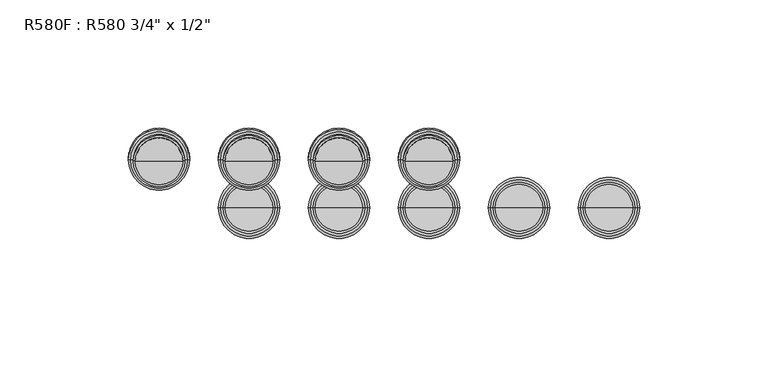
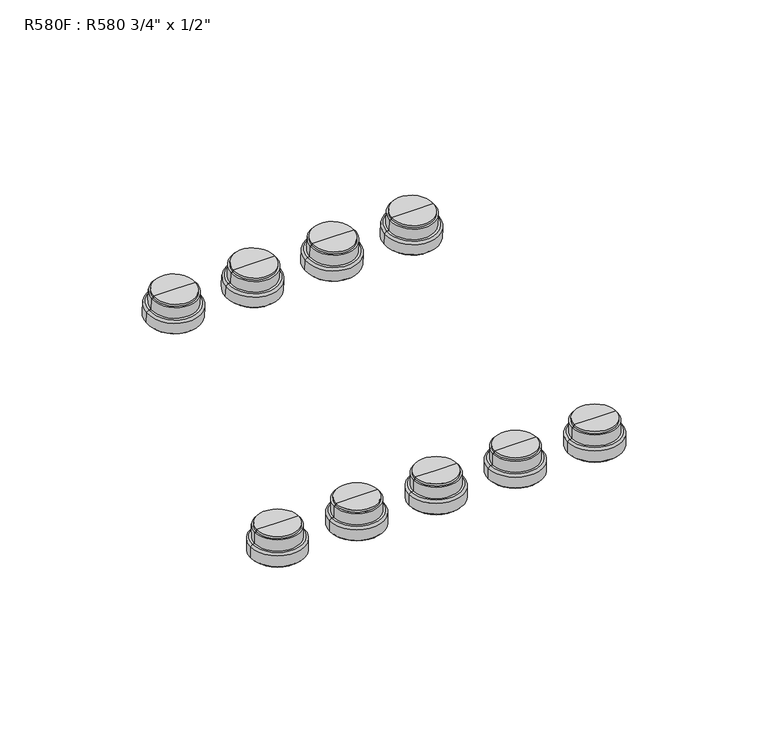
"""IFC4 building model written with IfcOpenShell, lengths in millimetres: proxy geometry."""

from ifc_helpers import new_model, si_unit, frame, origin, place, context, project, spatial, polyline, circle_curve, source, transform, mapped, element, save
from ifc_brep_helpers import plane_surface, cylinder_surface, revolved_surface, advanced_brep


def proxy_aa8e1a6c(model_context):
    return source(origin(), model_context, "Body", "AdvancedBrep", [
        advanced_brep(
        [(46.0837182, -40.61078, 23.0009657), (24.001911, -40.61078, 23.0009657), (35.0428146, -40.61078, 23.0009657), (35.0428146, -40.61078, 36.0625745), (25.8790369, -40.61078, 36.0625745), (44.2065922, -40.61078, 36.0625745), (25.8790369, -40.61078, 35.0572387), (44.2065922, -40.61078, 35.0572387), (25.0632135, -40.61078, 35.0572387), (45.0224157, -40.61078, 35.0572387), (25.0632135, -40.61078, 29.83161), (45.0224157, -40.61078, 29.83161), (24.0729601, -40.61078, 29.83161), (46.012669, -40.61078, 29.83161), (23.1221134, -40.61078, 28.8807632), (46.9635158, -40.61078, 28.8807632), (23.1221134, -40.61078, 23.8807632), (46.9635158, -40.61078, 23.8807632)],
        [
            (0, 1, circle_curve(frame((35.0428146, -40.61078, 23.0009657), z_axis=(0.0, 0.0, -1.0), x_axis=(-1.0, 0.0, 0.0)), 11.0409036)),
            (1, 2),
            (2, 0),
            (1, 0, circle_curve(frame((35.0428146, -40.61078, 23.0009657), z_axis=(0.0, 0.0, -1.0), x_axis=(-1.0, 0.0, 0.0)), 11.0409036)),
            (3, 4),
            (4, 5, circle_curve(frame((35.0428146, -40.61078, 36.0625745), z_axis=(0.0, 0.0, 1.0), x_axis=(-1.0, 0.0, 0.0)), 9.1637776)),
            (5, 3),
            (5, 4, circle_curve(frame((35.0428146, -40.61078, 36.0625745), z_axis=(0.0, 0.0, 1.0), x_axis=(-1.0, 0.0, 0.0)), 9.1637776)),
            (4, 6),
            (6, 7, circle_curve(frame((35.0428146, -40.61078, 35.0572387), z_axis=(0.0, 0.0, 1.0), x_axis=(-1.0, 0.0, 0.0)), 9.1637776)),
            (7, 5),
            (7, 6, circle_curve(frame((35.0428146, -40.61078, 35.0572387), z_axis=(0.0, 0.0, 1.0), x_axis=(-1.0, 0.0, 0.0)), 9.1637776)),
            (6, 8),
            (8, 9, circle_curve(frame((35.0428146, -40.61078, 35.0572387), z_axis=(0.0, 0.0, 1.0), x_axis=(-1.0, 0.0, 0.0)), 9.9796011)),
            (9, 7),
            (9, 8, circle_curve(frame((35.0428146, -40.61078, 35.0572387), z_axis=(0.0, 0.0, 1.0), x_axis=(-1.0, 0.0, 0.0)), 9.9796011)),
            (8, 10),
            (10, 11, circle_curve(frame((35.0428146, -40.61078, 29.83161), z_axis=(0.0, 0.0, 1.0), x_axis=(-1.0, 0.0, 0.0)), 9.9796011)),
            (11, 9),
            (11, 10, circle_curve(frame((35.0428146, -40.61078, 29.83161), z_axis=(0.0, 0.0, 1.0), x_axis=(-1.0, 0.0, 0.0)), 9.9796011)),
            (10, 12),
            (12, 13, circle_curve(frame((35.0428146, -40.61078, 29.83161), z_axis=(0.0, 0.0, 1.0), x_axis=(-1.0, 0.0, 0.0)), 10.9698544)),
            (13, 11),
            (13, 12, circle_curve(frame((35.0428146, -40.61078, 29.83161), z_axis=(0.0, 0.0, 1.0), x_axis=(-1.0, 0.0, 0.0)), 10.9698544)),
            (12, 14),
            (14, 15, circle_curve(frame((35.0428146, -40.61078, 28.8807632), z_axis=(0.0, 0.0, 1.0), x_axis=(-1.0, 0.0, 0.0)), 11.9207012)),
            (15, 13),
            (15, 14, circle_curve(frame((35.0428146, -40.61078, 28.8807632), z_axis=(0.0, 0.0, 1.0), x_axis=(-1.0, 0.0, 0.0)), 11.9207012)),
            (14, 16),
            (16, 17, circle_curve(frame((35.0428146, -40.61078, 23.8807632), z_axis=(0.0, 0.0, 1.0), x_axis=(-1.0, 0.0, 0.0)), 11.9207012)),
            (17, 15),
            (17, 16, circle_curve(frame((35.0428146, -40.61078, 23.8807632), z_axis=(0.0, 0.0, 1.0), x_axis=(-1.0, 0.0, 0.0)), 11.9207012)),
            (16, 1),
            (0, 17),
        ],
        [
            plane_surface(frame((35.0428146, -40.61078, 23.0009657), z_axis=(0.0, 0.0, -1.0), x_axis=(-1.0, 0.0, 0.0))),
            plane_surface(frame((35.0428146, -40.61078, 36.0625745), z_axis=(0.0, 0.0, 1.0), x_axis=(-1.0, 0.0, 0.0))),
            cylinder_surface(frame((35.0428146, -40.61078, 46.0625745), z_axis=(0.0, 0.0, 1.0), x_axis=(-1.0, 0.0, 0.0)), 9.1637776),
            plane_surface(frame((35.0428146, -40.61078, 35.0572387), z_axis=(0.0, 0.0, 1.0), x_axis=(-1.0, 0.0, 0.0))),
            cylinder_surface(frame((35.0428146, -40.61078, 46.0625745), z_axis=(0.0, 0.0, 1.0), x_axis=(-1.0, 0.0, 0.0)), 9.9796011),
            plane_surface(frame((35.0428146, -40.61078, 29.83161), z_axis=(0.0, 0.0, 1.0), x_axis=(-1.0, 0.0, 0.0))),
            revolved_surface(polyline([(23.1221134, -40.61078, 28.8807632), (24.0729601, -40.61078, 29.83161)]), (35.0428146, -40.61078, 46.0625745), (0.0, 0.0, 1.0)),
            cylinder_surface(frame((35.0428146, -40.61078, 46.0625745), z_axis=(0.0, 0.0, 1.0), x_axis=(-1.0, 0.0, 0.0)), 11.9207012),
            revolved_surface(polyline([(24.001911, -40.61078, 23.0009657), (23.1221134, -40.61078, 23.8807632)]), (35.0428146, -40.61078, 46.0625745), (0.0, 0.0, 1.0)),
        ],
        [
            (0, [[1, 2, 3]]),
            (0, [[4, -3, -2]]),
            (1, [[5, 6, 7]]),
            (1, [[-7, 8, -5]]),
            (2, [[-6, 9, 10, 11]]),
            (2, [[-8, -11, 12, -9]]),
            (3, [[-10, 13, 14, 15]]),
            (3, [[-12, -15, 16, -13]]),
            (4, [[-14, 17, 18, 19]]),
            (4, [[-16, -19, 20, -17]]),
            (5, [[-18, 21, 22, 23]]),
            (5, [[-20, -23, 24, -21]]),
            (6, [[-22, 25, 26, 27]]),
            (6, [[-24, -27, 28, -25]]),
            (7, [[-26, 29, 30, 31]]),
            (7, [[-28, -31, 32, -29]]),
            (8, [[-30, 33, -1, 34]]),
            (8, [[-32, -34, -4, -33]]),
        ],
    ),
        advanced_brep(
        [(81.12555, -40.61078, 23.0009657), (59.0437427, -40.61078, 23.0009657), (70.0846463, -40.61078, 23.0009657), (70.0846463, -40.61078, 36.0625745), (60.9208687, -40.61078, 36.0625745), (79.248424, -40.61078, 36.0625745), (60.9208687, -40.61078, 35.0572387), (79.248424, -40.61078, 35.0572387), (60.1050452, -40.61078, 35.0572387), (80.0642474, -40.61078, 35.0572387), (60.1050452, -40.61078, 29.83161), (80.0642474, -40.61078, 29.83161), (59.1147919, -40.61078, 29.83161), (81.0545008, -40.61078, 29.83161), (58.1639452, -40.61078, 28.8807632), (82.0053475, -40.61078, 28.8807632), (58.1639452, -40.61078, 23.8807632), (82.0053475, -40.61078, 23.8807632)],
        [
            (0, 1, circle_curve(frame((70.0846463, -40.61078, 23.0009657), z_axis=(0.0, 0.0, -1.0), x_axis=(-1.0, 0.0, 0.0)), 11.0409036)),
            (1, 2),
            (2, 0),
            (1, 0, circle_curve(frame((70.0846463, -40.61078, 23.0009657), z_axis=(0.0, 0.0, -1.0), x_axis=(-1.0, 0.0, 0.0)), 11.0409036)),
            (3, 4),
            (4, 5, circle_curve(frame((70.0846463, -40.61078, 36.0625745), z_axis=(0.0, 0.0, 1.0), x_axis=(-1.0, 0.0, 0.0)), 9.1637776)),
            (5, 3),
            (5, 4, circle_curve(frame((70.0846463, -40.61078, 36.0625745), z_axis=(0.0, 0.0, 1.0), x_axis=(-1.0, 0.0, 0.0)), 9.1637776)),
            (4, 6),
            (6, 7, circle_curve(frame((70.0846463, -40.61078, 35.0572387), z_axis=(0.0, 0.0, 1.0), x_axis=(-1.0, 0.0, 0.0)), 9.1637776)),
            (7, 5),
            (7, 6, circle_curve(frame((70.0846463, -40.61078, 35.0572387), z_axis=(0.0, 0.0, 1.0), x_axis=(-1.0, 0.0, 0.0)), 9.1637776)),
            (6, 8),
            (8, 9, circle_curve(frame((70.0846463, -40.61078, 35.0572387), z_axis=(0.0, 0.0, 1.0), x_axis=(-1.0, 0.0, 0.0)), 9.9796011)),
            (9, 7),
            (9, 8, circle_curve(frame((70.0846463, -40.61078, 35.0572387), z_axis=(0.0, 0.0, 1.0), x_axis=(-1.0, 0.0, 0.0)), 9.9796011)),
            (8, 10),
            (10, 11, circle_curve(frame((70.0846463, -40.61078, 29.83161), z_axis=(0.0, 0.0, 1.0), x_axis=(-1.0, 0.0, 0.0)), 9.9796011)),
            (11, 9),
            (11, 10, circle_curve(frame((70.0846463, -40.61078, 29.83161), z_axis=(0.0, 0.0, 1.0), x_axis=(-1.0, 0.0, 0.0)), 9.9796011)),
            (10, 12),
            (12, 13, circle_curve(frame((70.0846463, -40.61078, 29.83161), z_axis=(0.0, 0.0, 1.0), x_axis=(-1.0, 0.0, 0.0)), 10.9698544)),
            (13, 11),
            (13, 12, circle_curve(frame((70.0846463, -40.61078, 29.83161), z_axis=(0.0, 0.0, 1.0), x_axis=(-1.0, 0.0, 0.0)), 10.9698544)),
            (12, 14),
            (14, 15, circle_curve(frame((70.0846463, -40.61078, 28.8807632), z_axis=(0.0, 0.0, 1.0), x_axis=(-1.0, 0.0, 0.0)), 11.9207012)),
            (15, 13),
            (15, 14, circle_curve(frame((70.0846463, -40.61078, 28.8807632), z_axis=(0.0, 0.0, 1.0), x_axis=(-1.0, 0.0, 0.0)), 11.9207012)),
            (14, 16),
            (16, 17, circle_curve(frame((70.0846463, -40.61078, 23.8807632), z_axis=(0.0, 0.0, 1.0), x_axis=(-1.0, 0.0, 0.0)), 11.9207012)),
            (17, 15),
            (17, 16, circle_curve(frame((70.0846463, -40.61078, 23.8807632), z_axis=(0.0, 0.0, 1.0), x_axis=(-1.0, 0.0, 0.0)), 11.9207012)),
            (16, 1),
            (0, 17),
        ],
        [
            plane_surface(frame((70.0846463, -40.61078, 23.0009657), z_axis=(0.0, 0.0, -1.0), x_axis=(-1.0, 0.0, 0.0))),
            plane_surface(frame((70.0846463, -40.61078, 36.0625745), z_axis=(0.0, 0.0, 1.0), x_axis=(-1.0, 0.0, 0.0))),
            cylinder_surface(frame((70.0846463, -40.61078, 46.0625745), z_axis=(0.0, 0.0, 1.0), x_axis=(-1.0, 0.0, 0.0)), 9.1637776),
            plane_surface(frame((70.0846463, -40.61078, 35.0572387), z_axis=(0.0, 0.0, 1.0), x_axis=(-1.0, 0.0, 0.0))),
            cylinder_surface(frame((70.0846463, -40.61078, 46.0625745), z_axis=(0.0, 0.0, 1.0), x_axis=(-1.0, 0.0, 0.0)), 9.9796011),
            plane_surface(frame((70.0846463, -40.61078, 29.83161), z_axis=(0.0, 0.0, 1.0), x_axis=(-1.0, 0.0, 0.0))),
            revolved_surface(polyline([(58.1639452, -40.61078, 28.8807632), (59.1147919, -40.61078, 29.83161)]), (70.0846463, -40.61078, 46.0625745), (0.0, 0.0, 1.0)),
            cylinder_surface(frame((70.0846463, -40.61078, 46.0625745), z_axis=(0.0, 0.0, 1.0), x_axis=(-1.0, 0.0, 0.0)), 11.9207012),
            revolved_surface(polyline([(59.0437427, -40.61078, 23.0009657), (58.1639452, -40.61078, 23.8807632)]), (70.0846463, -40.61078, 46.0625745), (0.0, 0.0, 1.0)),
        ],
        [
            (0, [[1, 2, 3]]),
            (0, [[4, -3, -2]]),
            (1, [[5, 6, 7]]),
            (1, [[-7, 8, -5]]),
            (2, [[-6, 9, 10, 11]]),
            (2, [[-8, -11, 12, -9]]),
            (3, [[-10, 13, 14, 15]]),
            (3, [[-12, -15, 16, -13]]),
            (4, [[-14, 17, 18, 19]]),
            (4, [[-16, -19, 20, -17]]),
            (5, [[-18, 21, 22, 23]]),
            (5, [[-20, -23, 24, -21]]),
            (6, [[-22, 25, 26, 27]]),
            (6, [[-24, -27, 28, -25]]),
            (7, [[-26, 29, 30, 31]]),
            (7, [[-28, -31, 32, -29]]),
            (8, [[-30, 33, -1, 34]]),
            (8, [[-32, -34, -4, -33]]),
        ],
    ),
        advanced_brep(
        [(116.1814682, -40.61078, 23.0009657), (94.099661, -40.61078, 23.0009657), (105.1405646, -40.61078, 23.0009657), (105.1405646, -40.61078, 36.0625745), (95.976787, -40.61078, 36.0625745), (114.3043423, -40.61078, 36.0625745), (95.976787, -40.61078, 35.0572387), (114.3043423, -40.61078, 35.0572387), (95.1609635, -40.61078, 35.0572387), (115.1201657, -40.61078, 35.0572387), (95.1609635, -40.61078, 29.83161), (115.1201657, -40.61078, 29.83161), (94.1707102, -40.61078, 29.83161), (116.1104191, -40.61078, 29.83161), (93.2198634, -40.61078, 28.8807632), (117.0612658, -40.61078, 28.8807632), (93.2198634, -40.61078, 23.8807632), (117.0612658, -40.61078, 23.8807632)],
        [
            (0, 1, circle_curve(frame((105.1405646, -40.61078, 23.0009657), z_axis=(0.0, 0.0, -1.0), x_axis=(-1.0, 0.0, 0.0)), 11.0409036)),
            (1, 2),
            (2, 0),
            (1, 0, circle_curve(frame((105.1405646, -40.61078, 23.0009657), z_axis=(0.0, 0.0, -1.0), x_axis=(-1.0, 0.0, 0.0)), 11.0409036)),
            (3, 4),
            (4, 5, circle_curve(frame((105.1405646, -40.61078, 36.0625745), z_axis=(0.0, 0.0, 1.0), x_axis=(-1.0, 0.0, 0.0)), 9.1637776)),
            (5, 3),
            (5, 4, circle_curve(frame((105.1405646, -40.61078, 36.0625745), z_axis=(0.0, 0.0, 1.0), x_axis=(-1.0, 0.0, 0.0)), 9.1637776)),
            (4, 6),
            (6, 7, circle_curve(frame((105.1405646, -40.61078, 35.0572387), z_axis=(0.0, 0.0, 1.0), x_axis=(-1.0, 0.0, 0.0)), 9.1637776)),
            (7, 5),
            (7, 6, circle_curve(frame((105.1405646, -40.61078, 35.0572387), z_axis=(0.0, 0.0, 1.0), x_axis=(-1.0, 0.0, 0.0)), 9.1637776)),
            (6, 8),
            (8, 9, circle_curve(frame((105.1405646, -40.61078, 35.0572387), z_axis=(0.0, 0.0, 1.0), x_axis=(-1.0, 0.0, 0.0)), 9.9796011)),
            (9, 7),
            (9, 8, circle_curve(frame((105.1405646, -40.61078, 35.0572387), z_axis=(0.0, 0.0, 1.0), x_axis=(-1.0, 0.0, 0.0)), 9.9796011)),
            (8, 10),
            (10, 11, circle_curve(frame((105.1405646, -40.61078, 29.83161), z_axis=(0.0, 0.0, 1.0), x_axis=(-1.0, 0.0, 0.0)), 9.9796011)),
            (11, 9),
            (11, 10, circle_curve(frame((105.1405646, -40.61078, 29.83161), z_axis=(0.0, 0.0, 1.0), x_axis=(-1.0, 0.0, 0.0)), 9.9796011)),
            (10, 12),
            (12, 13, circle_curve(frame((105.1405646, -40.61078, 29.83161), z_axis=(0.0, 0.0, 1.0), x_axis=(-1.0, 0.0, 0.0)), 10.9698544)),
            (13, 11),
            (13, 12, circle_curve(frame((105.1405646, -40.61078, 29.83161), z_axis=(0.0, 0.0, 1.0), x_axis=(-1.0, 0.0, 0.0)), 10.9698544)),
            (12, 14),
            (14, 15, circle_curve(frame((105.1405646, -40.61078, 28.8807632), z_axis=(0.0, 0.0, 1.0), x_axis=(-1.0, 0.0, 0.0)), 11.9207012)),
            (15, 13),
            (15, 14, circle_curve(frame((105.1405646, -40.61078, 28.8807632), z_axis=(0.0, 0.0, 1.0), x_axis=(-1.0, 0.0, 0.0)), 11.9207012)),
            (14, 16),
            (16, 17, circle_curve(frame((105.1405646, -40.61078, 23.8807632), z_axis=(0.0, 0.0, 1.0), x_axis=(-1.0, 0.0, 0.0)), 11.9207012)),
            (17, 15),
            (17, 16, circle_curve(frame((105.1405646, -40.61078, 23.8807632), z_axis=(0.0, 0.0, 1.0), x_axis=(-1.0, 0.0, 0.0)), 11.9207012)),
            (16, 1),
            (0, 17),
        ],
        [
            plane_surface(frame((105.1405646, -40.61078, 23.0009657), z_axis=(0.0, 0.0, -1.0), x_axis=(-1.0, 0.0, 0.0))),
            plane_surface(frame((105.1405646, -40.61078, 36.0625745), z_axis=(0.0, 0.0, 1.0), x_axis=(-1.0, 0.0, 0.0))),
            cylinder_surface(frame((105.1405646, -40.61078, 46.0625745), z_axis=(0.0, 0.0, 1.0), x_axis=(-1.0, 0.0, 0.0)), 9.1637776),
            plane_surface(frame((105.1405646, -40.61078, 35.0572387), z_axis=(0.0, 0.0, 1.0), x_axis=(-1.0, 0.0, 0.0))),
            cylinder_surface(frame((105.1405646, -40.61078, 46.0625745), z_axis=(0.0, 0.0, 1.0), x_axis=(-1.0, 0.0, 0.0)), 9.9796011),
            plane_surface(frame((105.1405646, -40.61078, 29.83161), z_axis=(0.0, 0.0, 1.0), x_axis=(-1.0, 0.0, 0.0))),
            revolved_surface(polyline([(93.2198634, -40.61078, 28.8807632), (94.1707102, -40.61078, 29.83161)]), (105.1405646, -40.61078, 46.0625745), (0.0, 0.0, 1.0)),
            cylinder_surface(frame((105.1405646, -40.61078, 46.0625745), z_axis=(0.0, 0.0, 1.0), x_axis=(-1.0, 0.0, 0.0)), 11.9207012),
            revolved_surface(polyline([(94.099661, -40.61078, 23.0009657), (93.2198634, -40.61078, 23.8807632)]), (105.1405646, -40.61078, 46.0625745), (0.0, 0.0, 1.0)),
        ],
        [
            (0, [[1, 2, 3]]),
            (0, [[4, -3, -2]]),
            (1, [[5, 6, 7]]),
            (1, [[-7, 8, -5]]),
            (2, [[-6, 9, 10, 11]]),
            (2, [[-8, -11, 12, -9]]),
            (3, [[-10, 13, 14, 15]]),
            (3, [[-12, -15, 16, -13]]),
            (4, [[-14, 17, 18, 19]]),
            (4, [[-16, -19, 20, -17]]),
            (5, [[-18, 21, 22, 23]]),
            (5, [[-20, -23, 24, -21]]),
            (6, [[-22, 25, 26, 27]]),
            (6, [[-24, -27, 28, -25]]),
            (7, [[-26, 29, 30, 31]]),
            (7, [[-28, -31, 32, -29]]),
            (8, [[-30, 33, -1, 34]]),
            (8, [[-32, -34, -4, -33]]),
        ],
    ),
        advanced_brep(
        [(151.2285785, -40.61078, 23.0009657), (129.1467712, -40.61078, 23.0009657), (140.1876748, -40.61078, 23.0009657), (140.1876748, -40.61078, 36.0625745), (131.0238972, -40.61078, 36.0625745), (149.3514525, -40.61078, 36.0625745), (131.0238972, -40.61078, 35.0572387), (149.3514525, -40.61078, 35.0572387), (130.2080738, -40.61078, 35.0572387), (150.1672759, -40.61078, 35.0572387), (130.2080738, -40.61078, 29.83161), (150.1672759, -40.61078, 29.83161), (129.2178204, -40.61078, 29.83161), (151.1575293, -40.61078, 29.83161), (128.2669737, -40.61078, 28.8807632), (152.108376, -40.61078, 28.8807632), (128.2669737, -40.61078, 23.8807632), (152.108376, -40.61078, 23.8807632)],
        [
            (0, 1, circle_curve(frame((140.1876748, -40.61078, 23.0009657), z_axis=(0.0, 0.0, -1.0), x_axis=(-1.0, 0.0, 0.0)), 11.0409036)),
            (1, 2),
            (2, 0),
            (1, 0, circle_curve(frame((140.1876748, -40.61078, 23.0009657), z_axis=(0.0, 0.0, -1.0), x_axis=(-1.0, 0.0, 0.0)), 11.0409036)),
            (3, 4),
            (4, 5, circle_curve(frame((140.1876748, -40.61078, 36.0625745), z_axis=(0.0, 0.0, 1.0), x_axis=(-1.0, 0.0, 0.0)), 9.1637776)),
            (5, 3),
            (5, 4, circle_curve(frame((140.1876748, -40.61078, 36.0625745), z_axis=(0.0, 0.0, 1.0), x_axis=(-1.0, 0.0, 0.0)), 9.1637776)),
            (4, 6),
            (6, 7, circle_curve(frame((140.1876748, -40.61078, 35.0572387), z_axis=(0.0, 0.0, 1.0), x_axis=(-1.0, 0.0, 0.0)), 9.1637776)),
            (7, 5),
            (7, 6, circle_curve(frame((140.1876748, -40.61078, 35.0572387), z_axis=(0.0, 0.0, 1.0), x_axis=(-1.0, 0.0, 0.0)), 9.1637776)),
            (6, 8),
            (8, 9, circle_curve(frame((140.1876748, -40.61078, 35.0572387), z_axis=(0.0, 0.0, 1.0), x_axis=(-1.0, 0.0, 0.0)), 9.9796011)),
            (9, 7),
            (9, 8, circle_curve(frame((140.1876748, -40.61078, 35.0572387), z_axis=(0.0, 0.0, 1.0), x_axis=(-1.0, 0.0, 0.0)), 9.9796011)),
            (8, 10),
            (10, 11, circle_curve(frame((140.1876748, -40.61078, 29.83161), z_axis=(0.0, 0.0, 1.0), x_axis=(-1.0, 0.0, 0.0)), 9.9796011)),
            (11, 9),
            (11, 10, circle_curve(frame((140.1876748, -40.61078, 29.83161), z_axis=(0.0, 0.0, 1.0), x_axis=(-1.0, 0.0, 0.0)), 9.9796011)),
            (10, 12),
            (12, 13, circle_curve(frame((140.1876748, -40.61078, 29.83161), z_axis=(0.0, 0.0, 1.0), x_axis=(-1.0, 0.0, 0.0)), 10.9698544)),
            (13, 11),
            (13, 12, circle_curve(frame((140.1876748, -40.61078, 29.83161), z_axis=(0.0, 0.0, 1.0), x_axis=(-1.0, 0.0, 0.0)), 10.9698544)),
            (12, 14),
            (14, 15, circle_curve(frame((140.1876748, -40.61078, 28.8807632), z_axis=(0.0, 0.0, 1.0), x_axis=(-1.0, 0.0, 0.0)), 11.9207012)),
            (15, 13),
            (15, 14, circle_curve(frame((140.1876748, -40.61078, 28.8807632), z_axis=(0.0, 0.0, 1.0), x_axis=(-1.0, 0.0, 0.0)), 11.9207012)),
            (14, 16),
            (16, 17, circle_curve(frame((140.1876748, -40.61078, 23.8807632), z_axis=(0.0, 0.0, 1.0), x_axis=(-1.0, 0.0, 0.0)), 11.9207012)),
            (17, 15),
            (17, 16, circle_curve(frame((140.1876748, -40.61078, 23.8807632), z_axis=(0.0, 0.0, 1.0), x_axis=(-1.0, 0.0, 0.0)), 11.9207012)),
            (16, 1),
            (0, 17),
        ],
        [
            plane_surface(frame((140.1876748, -40.61078, 23.0009657), z_axis=(0.0, 0.0, -1.0), x_axis=(-1.0, 0.0, 0.0))),
            plane_surface(frame((140.1876748, -40.61078, 36.0625745), z_axis=(0.0, 0.0, 1.0), x_axis=(-1.0, 0.0, 0.0))),
            cylinder_surface(frame((140.1876748, -40.61078, 46.0625745), z_axis=(0.0, 0.0, 1.0), x_axis=(-1.0, 0.0, 0.0)), 9.1637776),
            plane_surface(frame((140.1876748, -40.61078, 35.0572387), z_axis=(0.0, 0.0, 1.0), x_axis=(-1.0, 0.0, 0.0))),
            cylinder_surface(frame((140.1876748, -40.61078, 46.0625745), z_axis=(0.0, 0.0, 1.0), x_axis=(-1.0, 0.0, 0.0)), 9.9796011),
            plane_surface(frame((140.1876748, -40.61078, 29.83161), z_axis=(0.0, 0.0, 1.0), x_axis=(-1.0, 0.0, 0.0))),
            revolved_surface(polyline([(128.2669737, -40.61078, 28.8807632), (129.2178204, -40.61078, 29.83161)]), (140.1876748, -40.61078, 46.0625745), (0.0, 0.0, 1.0)),
            cylinder_surface(frame((140.1876748, -40.61078, 46.0625745), z_axis=(0.0, 0.0, 1.0), x_axis=(-1.0, 0.0, 0.0)), 11.9207012),
            revolved_surface(polyline([(129.1467712, -40.61078, 23.0009657), (128.2669737, -40.61078, 23.8807632)]), (140.1876748, -40.61078, 46.0625745), (0.0, 0.0, 1.0)),
        ],
        [
            (0, [[1, 2, 3]]),
            (0, [[4, -3, -2]]),
            (1, [[5, 6, 7]]),
            (1, [[-7, 8, -5]]),
            (2, [[-6, 9, 10, 11]]),
            (2, [[-8, -11, 12, -9]]),
            (3, [[-10, 13, 14, 15]]),
            (3, [[-12, -15, 16, -13]]),
            (4, [[-14, 17, 18, 19]]),
            (4, [[-16, -19, 20, -17]]),
            (5, [[-18, 21, 22, 23]]),
            (5, [[-20, -23, 24, -21]]),
            (6, [[-22, 25, 26, 27]]),
            (6, [[-24, -27, 28, -25]]),
            (7, [[-26, 29, 30, 31]]),
            (7, [[-28, -31, 32, -29]]),
            (8, [[-30, 33, -1, 34]]),
            (8, [[-32, -34, -4, -33]]),
        ],
    ),
        advanced_brep(
        [(186.282739, -40.61078, 23.0009657), (164.2009317, -40.61078, 23.0009657), (175.2418354, -40.61078, 23.0009657), (175.2418354, -40.61078, 36.0625745), (166.0780577, -40.61078, 36.0625745), (184.405613, -40.61078, 36.0625745), (166.0780577, -40.61078, 35.0572387), (184.405613, -40.61078, 35.0572387), (165.2622343, -40.61078, 35.0572387), (185.2214365, -40.61078, 35.0572387), (165.2622343, -40.61078, 29.83161), (185.2214365, -40.61078, 29.83161), (164.2719809, -40.61078, 29.83161), (186.2116898, -40.61078, 29.83161), (163.3211342, -40.61078, 28.8807632), (187.1625365, -40.61078, 28.8807632), (163.3211342, -40.61078, 23.8807632), (187.1625365, -40.61078, 23.8807632)],
        [
            (0, 1, circle_curve(frame((175.2418354, -40.61078, 23.0009657), z_axis=(0.0, 0.0, -1.0), x_axis=(-1.0, 0.0, 0.0)), 11.0409036)),
            (1, 2),
            (2, 0),
            (1, 0, circle_curve(frame((175.2418354, -40.61078, 23.0009657), z_axis=(0.0, 0.0, -1.0), x_axis=(-1.0, 0.0, 0.0)), 11.0409036)),
            (3, 4),
            (4, 5, circle_curve(frame((175.2418354, -40.61078, 36.0625745), z_axis=(0.0, 0.0, 1.0), x_axis=(-1.0, 0.0, 0.0)), 9.1637776)),
            (5, 3),
            (5, 4, circle_curve(frame((175.2418354, -40.61078, 36.0625745), z_axis=(0.0, 0.0, 1.0), x_axis=(-1.0, 0.0, 0.0)), 9.1637776)),
            (4, 6),
            (6, 7, circle_curve(frame((175.2418354, -40.61078, 35.0572387), z_axis=(0.0, 0.0, 1.0), x_axis=(-1.0, 0.0, 0.0)), 9.1637776)),
            (7, 5),
            (7, 6, circle_curve(frame((175.2418354, -40.61078, 35.0572387), z_axis=(0.0, 0.0, 1.0), x_axis=(-1.0, 0.0, 0.0)), 9.1637776)),
            (6, 8),
            (8, 9, circle_curve(frame((175.2418354, -40.61078, 35.0572387), z_axis=(0.0, 0.0, 1.0), x_axis=(-1.0, 0.0, 0.0)), 9.9796011)),
            (9, 7),
            (9, 8, circle_curve(frame((175.2418354, -40.61078, 35.0572387), z_axis=(0.0, 0.0, 1.0), x_axis=(-1.0, 0.0, 0.0)), 9.9796011)),
            (8, 10),
            (10, 11, circle_curve(frame((175.2418354, -40.61078, 29.83161), z_axis=(0.0, 0.0, 1.0), x_axis=(-1.0, 0.0, 0.0)), 9.9796011)),
            (11, 9),
            (11, 10, circle_curve(frame((175.2418354, -40.61078, 29.83161), z_axis=(0.0, 0.0, 1.0), x_axis=(-1.0, 0.0, 0.0)), 9.9796011)),
            (10, 12),
            (12, 13, circle_curve(frame((175.2418354, -40.61078, 29.83161), z_axis=(0.0, 0.0, 1.0), x_axis=(-1.0, 0.0, 0.0)), 10.9698544)),
            (13, 11),
            (13, 12, circle_curve(frame((175.2418354, -40.61078, 29.83161), z_axis=(0.0, 0.0, 1.0), x_axis=(-1.0, 0.0, 0.0)), 10.9698544)),
            (12, 14),
            (14, 15, circle_curve(frame((175.2418354, -40.61078, 28.8807632), z_axis=(0.0, 0.0, 1.0), x_axis=(-1.0, 0.0, 0.0)), 11.9207012)),
            (15, 13),
            (15, 14, circle_curve(frame((175.2418354, -40.61078, 28.8807632), z_axis=(0.0, 0.0, 1.0), x_axis=(-1.0, 0.0, 0.0)), 11.9207012)),
            (14, 16),
            (16, 17, circle_curve(frame((175.2418354, -40.61078, 23.8807632), z_axis=(0.0, 0.0, 1.0), x_axis=(-1.0, 0.0, 0.0)), 11.9207012)),
            (17, 15),
            (17, 16, circle_curve(frame((175.2418354, -40.61078, 23.8807632), z_axis=(0.0, 0.0, 1.0), x_axis=(-1.0, 0.0, 0.0)), 11.9207012)),
            (16, 1),
            (0, 17),
        ],
        [
            plane_surface(frame((175.2418354, -40.61078, 23.0009657), z_axis=(0.0, 0.0, -1.0), x_axis=(-1.0, 0.0, 0.0))),
            plane_surface(frame((175.2418354, -40.61078, 36.0625745), z_axis=(0.0, 0.0, 1.0), x_axis=(-1.0, 0.0, 0.0))),
            cylinder_surface(frame((175.2418354, -40.61078, 46.0625745), z_axis=(0.0, 0.0, 1.0), x_axis=(-1.0, 0.0, 0.0)), 9.1637776),
            plane_surface(frame((175.2418354, -40.61078, 35.0572387), z_axis=(0.0, 0.0, 1.0), x_axis=(-1.0, 0.0, 0.0))),
            cylinder_surface(frame((175.2418354, -40.61078, 46.0625745), z_axis=(0.0, 0.0, 1.0), x_axis=(-1.0, 0.0, 0.0)), 9.9796011),
            plane_surface(frame((175.2418354, -40.61078, 29.83161), z_axis=(0.0, 0.0, 1.0), x_axis=(-1.0, 0.0, 0.0))),
            revolved_surface(polyline([(163.3211342, -40.61078, 28.8807632), (164.2719809, -40.61078, 29.83161)]), (175.2418354, -40.61078, 46.0625745), (0.0, 0.0, 1.0)),
            cylinder_surface(frame((175.2418354, -40.61078, 46.0625745), z_axis=(0.0, 0.0, 1.0), x_axis=(-1.0, 0.0, 0.0)), 11.9207012),
            revolved_surface(polyline([(164.2009317, -40.61078, 23.0009657), (163.3211342, -40.61078, 23.8807632)]), (175.2418354, -40.61078, 46.0625745), (0.0, 0.0, 1.0)),
        ],
        [
            (0, [[1, 2, 3]]),
            (0, [[4, -3, -2]]),
            (1, [[5, 6, 7]]),
            (1, [[-7, 8, -5]]),
            (2, [[-6, 9, 10, 11]]),
            (2, [[-8, -11, 12, -9]]),
            (3, [[-10, 13, 14, 15]]),
            (3, [[-12, -15, 16, -13]]),
            (4, [[-14, 17, 18, 19]]),
            (4, [[-16, -19, 20, -17]]),
            (5, [[-18, 21, 22, 23]]),
            (5, [[-20, -23, 24, -21]]),
            (6, [[-22, 25, 26, 27]]),
            (6, [[-24, -27, 28, -25]]),
            (7, [[-26, 29, 30, 31]]),
            (7, [[-28, -31, 32, -29]]),
            (8, [[-30, 33, -1, 34]]),
            (8, [[-32, -34, -4, -33]]),
        ],
    ),
        advanced_brep(
        [(11.0409036, -21.3915839, 133.4969661), (-11.0409036, -21.3915839, 133.4969661), (0.0, -21.3915839, 133.4969661), (0.0, -22.5299781, 146.5088716), (-9.1637776, -22.5299781, 146.5088716), (9.1637776, -22.5299781, 146.5088716), (-9.1637776, -22.4423573, 145.5073614), (9.1637776, -22.4423573, 145.5073614), (-9.9796011, -22.4423573, 145.5073614), (9.9796011, -22.4423573, 145.5073614), (-9.9796011, -21.9869138, 140.3016177), (9.9796011, -21.9869138, 140.3016177), (-10.9698544, -21.9869138, 140.3016177), (10.9698544, -21.9869138, 140.3016177), (-11.9207012, -21.904042, 139.3543892), (11.9207012, -21.904042, 139.3543892), (-11.9207012, -21.4682633, 134.3734158), (11.9207012, -21.4682633, 134.3734158)],
        [
            (0, 1, circle_curve(frame((0.0, -21.3915839, 133.4969661), z_axis=(0.0, 0.08715574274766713, -0.9961946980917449), x_axis=(-0.9999999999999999, 0.0, 0.0)), 11.0409036)),
            (1, 2),
            (2, 0),
            (1, 0, circle_curve(frame((0.0, -21.3915839, 133.4969661), z_axis=(0.0, 0.08715574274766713, -0.9961946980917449), x_axis=(-0.9999999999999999, 0.0, 0.0)), 11.0409036)),
            (3, 4),
            (4, 5, circle_curve(frame((0.0, -22.5299781, 146.5088716), z_axis=(0.0, -0.08715574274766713, 0.9961946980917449), x_axis=(-0.9999999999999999, 0.0, 0.0)), 9.1637776)),
            (5, 3),
            (5, 4, circle_curve(frame((0.0, -22.5299781, 146.5088716), z_axis=(0.0, -0.08715574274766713, 0.9961946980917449), x_axis=(-0.9999999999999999, 0.0, 0.0)), 9.1637776)),
            (4, 6),
            (6, 7, circle_curve(frame((0.0, -22.4423573, 145.5073614), z_axis=(0.0, -0.08715574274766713, 0.9961946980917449), x_axis=(-0.9999999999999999, 0.0, 0.0)), 9.1637776)),
            (7, 5),
            (7, 6, circle_curve(frame((0.0, -22.4423573, 145.5073614), z_axis=(0.0, -0.08715574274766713, 0.9961946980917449), x_axis=(-0.9999999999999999, 0.0, 0.0)), 9.1637776)),
            (6, 8),
            (8, 9, circle_curve(frame((0.0, -22.4423573, 145.5073614), z_axis=(0.0, -0.08715574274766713, 0.9961946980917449), x_axis=(-0.9999999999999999, 0.0, 0.0)), 9.9796011)),
            (9, 7),
            (9, 8, circle_curve(frame((0.0, -22.4423573, 145.5073614), z_axis=(0.0, -0.08715574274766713, 0.9961946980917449), x_axis=(-0.9999999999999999, 0.0, 0.0)), 9.9796011)),
            (8, 10),
            (10, 11, circle_curve(frame((0.0, -21.9869138, 140.3016177), z_axis=(0.0, -0.08715574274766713, 0.9961946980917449), x_axis=(-0.9999999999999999, 0.0, 0.0)), 9.9796011)),
            (11, 9),
            (11, 10, circle_curve(frame((0.0, -21.9869138, 140.3016177), z_axis=(0.0, -0.08715574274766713, 0.9961946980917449), x_axis=(-0.9999999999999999, 0.0, 0.0)), 9.9796011)),
            (10, 12),
            (12, 13, circle_curve(frame((0.0, -21.9869138, 140.3016177), z_axis=(0.0, -0.08715574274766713, 0.9961946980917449), x_axis=(-0.9999999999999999, 0.0, 0.0)), 10.9698544)),
            (13, 11),
            (13, 12, circle_curve(frame((0.0, -21.9869138, 140.3016177), z_axis=(0.0, -0.08715574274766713, 0.9961946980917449), x_axis=(-0.9999999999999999, 0.0, 0.0)), 10.9698544)),
            (12, 14),
            (14, 15, circle_curve(frame((0.0, -21.904042, 139.3543892), z_axis=(0.0, -0.08715574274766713, 0.9961946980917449), x_axis=(-0.9999999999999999, 0.0, 0.0)), 11.9207012)),
            (15, 13),
            (15, 14, circle_curve(frame((0.0, -21.904042, 139.3543892), z_axis=(0.0, -0.08715574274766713, 0.9961946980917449), x_axis=(-0.9999999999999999, 0.0, 0.0)), 11.9207012)),
            (14, 16),
            (16, 17, circle_curve(frame((0.0, -21.4682633, 134.3734158), z_axis=(0.0, -0.08715574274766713, 0.9961946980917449), x_axis=(-0.9999999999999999, 0.0, 0.0)), 11.9207012)),
            (17, 15),
            (17, 16, circle_curve(frame((0.0, -21.4682633, 134.3734158), z_axis=(0.0, -0.08715574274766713, 0.9961946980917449), x_axis=(-0.9999999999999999, 0.0, 0.0)), 11.9207012)),
            (16, 1),
            (0, 17),
        ],
        [
            plane_surface(frame((0.0, -21.3915839, 133.4969661), z_axis=(0.0, 0.08715574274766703, -0.9961946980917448), x_axis=(-1.0, 0.0, 0.0))),
            plane_surface(frame((0.0, -22.5299781, 146.5088716), z_axis=(0.0, -0.08715574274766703, 0.9961946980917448), x_axis=(-1.0, 0.0, 0.0))),
            cylinder_surface(frame((0.0, -23.4015355, 156.4708185), z_axis=(0.0, -0.08715574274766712, 0.9961946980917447), x_axis=(-0.9999999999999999, 0.0, 0.0)), 9.1637776),
            plane_surface(frame((0.0, -22.4423573, 145.5073614), z_axis=(0.0, -0.08715574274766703, 0.9961946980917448), x_axis=(-1.0, 0.0, 0.0))),
            cylinder_surface(frame((0.0, -23.4015355, 156.4708185), z_axis=(0.0, -0.08715574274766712, 0.9961946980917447), x_axis=(-0.9999999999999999, 0.0, 0.0)), 9.9796011),
            plane_surface(frame((0.0, -21.9869138, 140.3016177), z_axis=(0.0, -0.08715574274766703, 0.9961946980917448), x_axis=(-1.0, 0.0, 0.0))),
            revolved_surface(polyline([(-11.9207012, -21.904042, 139.3543892), (-10.9698544, -21.9869138, 140.3016177)]), (0.0, -23.4015355, 156.4708185), (0.0, -0.08715574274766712, 0.9961946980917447)),
            cylinder_surface(frame((0.0, -23.4015355, 156.4708185), z_axis=(0.0, -0.08715574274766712, 0.9961946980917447), x_axis=(-0.9999999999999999, 0.0, 0.0)), 11.9207012),
            revolved_surface(polyline([(-11.0409036, -21.3915839, 133.4969661), (-11.9207012, -21.4682633, 134.3734158)]), (0.0, -23.4015355, 156.4708185), (0.0, -0.08715574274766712, 0.9961946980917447)),
        ],
        [
            (0, [[1, 2, 3]]),
            (0, [[4, -3, -2]]),
            (1, [[5, 6, 7]]),
            (1, [[-7, 8, -5]]),
            (2, [[-6, 9, 10, 11]]),
            (2, [[-8, -11, 12, -9]]),
            (3, [[-10, 13, 14, 15]]),
            (3, [[-12, -15, 16, -13]]),
            (4, [[-14, 17, 18, 19]]),
            (4, [[-16, -19, 20, -17]]),
            (5, [[-18, 21, 22, 23]]),
            (5, [[-20, -23, 24, -21]]),
            (6, [[-22, 25, 26, 27]]),
            (6, [[-24, -27, 28, -25]]),
            (7, [[-26, 29, 30, 31]]),
            (7, [[-28, -31, 32, -29]]),
            (8, [[-30, 33, -1, 34]]),
            (8, [[-32, -34, -4, -33]]),
        ],
    ),
        advanced_brep(
        [(46.0837182, -21.3915839, 133.4969661), (24.001911, -21.3915839, 133.4969661), (35.0428146, -21.3915839, 133.4969661), (35.0428146, -22.5299781, 146.5088716), (25.8790369, -22.5299781, 146.5088716), (44.2065922, -22.5299781, 146.5088716), (25.8790369, -22.4423573, 145.5073614), (44.2065922, -22.4423573, 145.5073614), (25.0632135, -22.4423573, 145.5073614), (45.0224157, -22.4423573, 145.5073614), (25.0632135, -21.9869138, 140.3016177), (45.0224157, -21.9869138, 140.3016177), (24.0729601, -21.9869138, 140.3016177), (46.012669, -21.9869138, 140.3016177), (23.1221134, -21.904042, 139.3543892), (46.9635158, -21.904042, 139.3543892), (23.1221134, -21.4682633, 134.3734158), (46.9635158, -21.4682633, 134.3734158)],
        [
            (0, 1, circle_curve(frame((35.0428146, -21.3915839, 133.4969661), z_axis=(0.0, 0.08715574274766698, -0.9961946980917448), x_axis=(-1.0, 0.0, 0.0)), 11.0409036)),
            (1, 2),
            (2, 0),
            (1, 0, circle_curve(frame((35.0428146, -21.3915839, 133.4969661), z_axis=(0.0, 0.08715574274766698, -0.9961946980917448), x_axis=(-1.0, 0.0, 0.0)), 11.0409036)),
            (3, 4),
            (4, 5, circle_curve(frame((35.0428146, -22.5299781, 146.5088716), z_axis=(0.0, -0.08715574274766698, 0.9961946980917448), x_axis=(-1.0, 0.0, 0.0)), 9.1637776)),
            (5, 3),
            (5, 4, circle_curve(frame((35.0428146, -22.5299781, 146.5088716), z_axis=(0.0, -0.08715574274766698, 0.9961946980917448), x_axis=(-1.0, 0.0, 0.0)), 9.1637776)),
            (4, 6),
            (6, 7, circle_curve(frame((35.0428146, -22.4423573, 145.5073614), z_axis=(0.0, -0.08715574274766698, 0.9961946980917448), x_axis=(-1.0, 0.0, 0.0)), 9.1637776)),
            (7, 5),
            (7, 6, circle_curve(frame((35.0428146, -22.4423573, 145.5073614), z_axis=(0.0, -0.08715574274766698, 0.9961946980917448), x_axis=(-1.0, 0.0, 0.0)), 9.1637776)),
            (6, 8),
            (8, 9, circle_curve(frame((35.0428146, -22.4423573, 145.5073614), z_axis=(0.0, -0.08715574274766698, 0.9961946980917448), x_axis=(-1.0, 0.0, 0.0)), 9.9796011)),
            (9, 7),
            (9, 8, circle_curve(frame((35.0428146, -22.4423573, 145.5073614), z_axis=(0.0, -0.08715574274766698, 0.9961946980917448), x_axis=(-1.0, 0.0, 0.0)), 9.9796011)),
            (8, 10),
            (10, 11, circle_curve(frame((35.0428146, -21.9869138, 140.3016177), z_axis=(0.0, -0.08715574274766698, 0.9961946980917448), x_axis=(-1.0, 0.0, 0.0)), 9.9796011)),
            (11, 9),
            (11, 10, circle_curve(frame((35.0428146, -21.9869138, 140.3016177), z_axis=(0.0, -0.08715574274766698, 0.9961946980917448), x_axis=(-1.0, 0.0, 0.0)), 9.9796011)),
            (10, 12),
            (12, 13, circle_curve(frame((35.0428146, -21.9869138, 140.3016177), z_axis=(0.0, -0.08715574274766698, 0.9961946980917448), x_axis=(-1.0, 0.0, 0.0)), 10.9698544)),
            (13, 11),
            (13, 12, circle_curve(frame((35.0428146, -21.9869138, 140.3016177), z_axis=(0.0, -0.08715574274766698, 0.9961946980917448), x_axis=(-1.0, 0.0, 0.0)), 10.9698544)),
            (12, 14),
            (14, 15, circle_curve(frame((35.0428146, -21.904042, 139.3543892), z_axis=(0.0, -0.08715574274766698, 0.9961946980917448), x_axis=(-1.0, 0.0, 0.0)), 11.9207012)),
            (15, 13),
            (15, 14, circle_curve(frame((35.0428146, -21.904042, 139.3543892), z_axis=(0.0, -0.08715574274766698, 0.9961946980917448), x_axis=(-1.0, 0.0, 0.0)), 11.9207012)),
            (14, 16),
            (16, 17, circle_curve(frame((35.0428146, -21.4682633, 134.3734158), z_axis=(0.0, -0.08715574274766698, 0.9961946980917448), x_axis=(-1.0, 0.0, 0.0)), 11.9207012)),
            (17, 15),
            (17, 16, circle_curve(frame((35.0428146, -21.4682633, 134.3734158), z_axis=(0.0, -0.08715574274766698, 0.9961946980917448), x_axis=(-1.0, 0.0, 0.0)), 11.9207012)),
            (16, 1),
            (0, 17),
        ],
        [
            plane_surface(frame((35.0428146, -21.3915839, 133.4969661), z_axis=(0.0, 0.08715574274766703, -0.9961946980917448), x_axis=(-1.0, 0.0, 0.0))),
            plane_surface(frame((35.0428146, -22.5299781, 146.5088716), z_axis=(0.0, -0.08715574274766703, 0.9961946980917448), x_axis=(-1.0, 0.0, 0.0))),
            cylinder_surface(frame((35.0428146, -23.4015355, 156.4708185), z_axis=(0.0, -0.08715574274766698, 0.9961946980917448), x_axis=(-1.0, 0.0, 0.0)), 9.1637776),
            plane_surface(frame((35.0428146, -22.4423573, 145.5073614), z_axis=(0.0, -0.08715574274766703, 0.9961946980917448), x_axis=(-1.0, 0.0, 0.0))),
            cylinder_surface(frame((35.0428146, -23.4015355, 156.4708185), z_axis=(0.0, -0.08715574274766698, 0.9961946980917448), x_axis=(-1.0, 0.0, 0.0)), 9.9796011),
            plane_surface(frame((35.0428146, -21.9869138, 140.3016177), z_axis=(0.0, -0.08715574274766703, 0.9961946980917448), x_axis=(-1.0, 0.0, 0.0))),
            revolved_surface(polyline([(23.1221134, -21.904042, 139.3543892), (24.0729601, -21.9869138, 140.3016177)]), (35.0428146, -23.4015355, 156.4708185), (0.0, -0.08715574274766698, 0.9961946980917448)),
            cylinder_surface(frame((35.0428146, -23.4015355, 156.4708185), z_axis=(0.0, -0.08715574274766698, 0.9961946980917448), x_axis=(-1.0, 0.0, 0.0)), 11.9207012),
            revolved_surface(polyline([(24.001911, -21.3915839, 133.4969661), (23.1221134, -21.4682633, 134.3734158)]), (35.0428146, -23.4015355, 156.4708185), (0.0, -0.08715574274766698, 0.9961946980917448)),
        ],
        [
            (0, [[1, 2, 3]]),
            (0, [[4, -3, -2]]),
            (1, [[5, 6, 7]]),
            (1, [[-7, 8, -5]]),
            (2, [[-6, 9, 10, 11]]),
            (2, [[-8, -11, 12, -9]]),
            (3, [[-10, 13, 14, 15]]),
            (3, [[-12, -15, 16, -13]]),
            (4, [[-14, 17, 18, 19]]),
            (4, [[-16, -19, 20, -17]]),
            (5, [[-18, 21, 22, 23]]),
            (5, [[-20, -23, 24, -21]]),
            (6, [[-22, 25, 26, 27]]),
            (6, [[-24, -27, 28, -25]]),
            (7, [[-26, 29, 30, 31]]),
            (7, [[-28, -31, 32, -29]]),
            (8, [[-30, 33, -1, 34]]),
            (8, [[-32, -34, -4, -33]]),
        ],
    ),
        advanced_brep(
        [(81.12555, -21.3915839, 133.4969661), (59.0437427, -21.3915839, 133.4969661), (70.0846463, -21.3915839, 133.4969661), (70.0846463, -22.5299781, 146.5088716), (60.9208687, -22.5299781, 146.5088716), (79.248424, -22.5299781, 146.5088716), (60.9208687, -22.4423573, 145.5073614), (79.248424, -22.4423573, 145.5073614), (60.1050452, -22.4423573, 145.5073614), (80.0642474, -22.4423573, 145.5073614), (60.1050452, -21.9869138, 140.3016177), (80.0642474, -21.9869138, 140.3016177), (59.1147919, -21.9869138, 140.3016177), (81.0545008, -21.9869138, 140.3016177), (58.1639452, -21.904042, 139.3543892), (82.0053475, -21.904042, 139.3543892), (58.1639452, -21.4682633, 134.3734158), (82.0053475, -21.4682633, 134.3734158)],
        [
            (0, 1, circle_curve(frame((70.0846463, -21.3915839, 133.4969661), z_axis=(0.0, 0.08715574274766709, -0.9961946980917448), x_axis=(-1.0, 0.0, 0.0)), 11.0409036)),
            (1, 2),
            (2, 0),
            (1, 0, circle_curve(frame((70.0846463, -21.3915839, 133.4969661), z_axis=(0.0, 0.08715574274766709, -0.9961946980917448), x_axis=(-1.0, 0.0, 0.0)), 11.0409036)),
            (3, 4),
            (4, 5, circle_curve(frame((70.0846463, -22.5299781, 146.5088716), z_axis=(0.0, -0.08715574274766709, 0.9961946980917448), x_axis=(-1.0, 0.0, 0.0)), 9.1637776)),
            (5, 3),
            (5, 4, circle_curve(frame((70.0846463, -22.5299781, 146.5088716), z_axis=(0.0, -0.08715574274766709, 0.9961946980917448), x_axis=(-1.0, 0.0, 0.0)), 9.1637776)),
            (4, 6),
            (6, 7, circle_curve(frame((70.0846463, -22.4423573, 145.5073614), z_axis=(0.0, -0.08715574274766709, 0.9961946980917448), x_axis=(-1.0, 0.0, 0.0)), 9.1637776)),
            (7, 5),
            (7, 6, circle_curve(frame((70.0846463, -22.4423573, 145.5073614), z_axis=(0.0, -0.08715574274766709, 0.9961946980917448), x_axis=(-1.0, 0.0, 0.0)), 9.1637776)),
            (6, 8),
            (8, 9, circle_curve(frame((70.0846463, -22.4423573, 145.5073614), z_axis=(0.0, -0.08715574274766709, 0.9961946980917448), x_axis=(-1.0, 0.0, 0.0)), 9.9796011)),
            (9, 7),
            (9, 8, circle_curve(frame((70.0846463, -22.4423573, 145.5073614), z_axis=(0.0, -0.08715574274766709, 0.9961946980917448), x_axis=(-1.0, 0.0, 0.0)), 9.9796011)),
            (8, 10),
            (10, 11, circle_curve(frame((70.0846463, -21.9869138, 140.3016177), z_axis=(0.0, -0.08715574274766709, 0.9961946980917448), x_axis=(-1.0, 0.0, 0.0)), 9.9796011)),
            (11, 9),
            (11, 10, circle_curve(frame((70.0846463, -21.9869138, 140.3016177), z_axis=(0.0, -0.08715574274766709, 0.9961946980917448), x_axis=(-1.0, 0.0, 0.0)), 9.9796011)),
            (10, 12),
            (12, 13, circle_curve(frame((70.0846463, -21.9869138, 140.3016177), z_axis=(0.0, -0.08715574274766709, 0.9961946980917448), x_axis=(-1.0, 0.0, 0.0)), 10.9698544)),
            (13, 11),
            (13, 12, circle_curve(frame((70.0846463, -21.9869138, 140.3016177), z_axis=(0.0, -0.08715574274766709, 0.9961946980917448), x_axis=(-1.0, 0.0, 0.0)), 10.9698544)),
            (12, 14),
            (14, 15, circle_curve(frame((70.0846463, -21.904042, 139.3543892), z_axis=(0.0, -0.08715574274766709, 0.9961946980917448), x_axis=(-1.0, 0.0, 0.0)), 11.9207012)),
            (15, 13),
            (15, 14, circle_curve(frame((70.0846463, -21.904042, 139.3543892), z_axis=(0.0, -0.08715574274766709, 0.9961946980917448), x_axis=(-1.0, 0.0, 0.0)), 11.9207012)),
            (14, 16),
            (16, 17, circle_curve(frame((70.0846463, -21.4682633, 134.3734158), z_axis=(0.0, -0.08715574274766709, 0.9961946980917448), x_axis=(-1.0, 0.0, 0.0)), 11.9207012)),
            (17, 15),
            (17, 16, circle_curve(frame((70.0846463, -21.4682633, 134.3734158), z_axis=(0.0, -0.08715574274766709, 0.9961946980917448), x_axis=(-1.0, 0.0, 0.0)), 11.9207012)),
            (16, 1),
            (0, 17),
        ],
        [
            plane_surface(frame((70.0846463, -21.3915839, 133.4969661), z_axis=(0.0, 0.08715574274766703, -0.9961946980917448), x_axis=(-1.0, 0.0, 0.0))),
            plane_surface(frame((70.0846463, -22.5299781, 146.5088716), z_axis=(0.0, -0.08715574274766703, 0.9961946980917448), x_axis=(-1.0, 0.0, 0.0))),
            cylinder_surface(frame((70.0846463, -23.4015355, 156.4708185), z_axis=(0.0, -0.08715574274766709, 0.9961946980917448), x_axis=(-1.0, 0.0, 0.0)), 9.1637776),
            plane_surface(frame((70.0846463, -22.4423573, 145.5073614), z_axis=(0.0, -0.08715574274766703, 0.9961946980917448), x_axis=(-1.0, 0.0, 0.0))),
            cylinder_surface(frame((70.0846463, -23.4015355, 156.4708185), z_axis=(0.0, -0.08715574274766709, 0.9961946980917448), x_axis=(-1.0, 0.0, 0.0)), 9.9796011),
            plane_surface(frame((70.0846463, -21.9869138, 140.3016177), z_axis=(0.0, -0.08715574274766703, 0.9961946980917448), x_axis=(-1.0, 0.0, 0.0))),
            revolved_surface(polyline([(58.1639452, -21.904042, 139.3543892), (59.1147919, -21.9869138, 140.3016177)]), (70.0846463, -23.4015355, 156.4708185), (0.0, -0.08715574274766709, 0.9961946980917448)),
            cylinder_surface(frame((70.0846463, -23.4015355, 156.4708185), z_axis=(0.0, -0.08715574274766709, 0.9961946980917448), x_axis=(-1.0, 0.0, 0.0)), 11.9207012),
            revolved_surface(polyline([(59.0437427, -21.3915839, 133.4969661), (58.1639452, -21.4682633, 134.3734158)]), (70.0846463, -23.4015355, 156.4708185), (0.0, -0.08715574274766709, 0.9961946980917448)),
        ],
        [
            (0, [[1, 2, 3]]),
            (0, [[4, -3, -2]]),
            (1, [[5, 6, 7]]),
            (1, [[-7, 8, -5]]),
            (2, [[-6, 9, 10, 11]]),
            (2, [[-8, -11, 12, -9]]),
            (3, [[-10, 13, 14, 15]]),
            (3, [[-12, -15, 16, -13]]),
            (4, [[-14, 17, 18, 19]]),
            (4, [[-16, -19, 20, -17]]),
            (5, [[-18, 21, 22, 23]]),
            (5, [[-20, -23, 24, -21]]),
            (6, [[-22, 25, 26, 27]]),
            (6, [[-24, -27, 28, -25]]),
            (7, [[-26, 29, 30, 31]]),
            (7, [[-28, -31, 32, -29]]),
            (8, [[-30, 33, -1, 34]]),
            (8, [[-32, -34, -4, -33]]),
        ],
    ),
        advanced_brep(
        [(116.1814682, -21.3915839, 133.4969661), (94.099661, -21.3915839, 133.4969661), (105.1405646, -21.3915839, 133.4969661), (105.1405646, -22.5299781, 146.5088716), (95.976787, -22.5299781, 146.5088716), (114.3043423, -22.5299781, 146.5088716), (95.976787, -22.4423573, 145.5073614), (114.3043423, -22.4423573, 145.5073614), (95.1609635, -22.4423573, 145.5073614), (115.1201657, -22.4423573, 145.5073614), (95.1609635, -21.9869138, 140.3016177), (115.1201657, -21.9869138, 140.3016177), (94.1707102, -21.9869138, 140.3016177), (116.1104191, -21.9869138, 140.3016177), (93.2198634, -21.904042, 139.3543892), (117.0612658, -21.904042, 139.3543892), (93.2198634, -21.4682633, 134.3734158), (117.0612658, -21.4682633, 134.3734158)],
        [
            (0, 1, circle_curve(frame((105.1405646, -21.3915839, 133.4969661), z_axis=(0.0, 0.08715574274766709, -0.9961946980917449), x_axis=(-1.0000000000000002, 0.0, 0.0)), 11.0409036)),
            (1, 2),
            (2, 0),
            (1, 0, circle_curve(frame((105.1405646, -21.3915839, 133.4969661), z_axis=(0.0, 0.08715574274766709, -0.9961946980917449), x_axis=(-1.0000000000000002, 0.0, 0.0)), 11.0409036)),
            (3, 4),
            (4, 5, circle_curve(frame((105.1405646, -22.5299781, 146.5088716), z_axis=(0.0, -0.08715574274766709, 0.9961946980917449), x_axis=(-1.0000000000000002, 0.0, 0.0)), 9.1637776)),
            (5, 3),
            (5, 4, circle_curve(frame((105.1405646, -22.5299781, 146.5088716), z_axis=(0.0, -0.08715574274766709, 0.9961946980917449), x_axis=(-1.0000000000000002, 0.0, 0.0)), 9.1637776)),
            (4, 6),
            (6, 7, circle_curve(frame((105.1405646, -22.4423573, 145.5073614), z_axis=(0.0, -0.08715574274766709, 0.9961946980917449), x_axis=(-1.0000000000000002, 0.0, 0.0)), 9.1637776)),
            (7, 5),
            (7, 6, circle_curve(frame((105.1405646, -22.4423573, 145.5073614), z_axis=(0.0, -0.08715574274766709, 0.9961946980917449), x_axis=(-1.0000000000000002, 0.0, 0.0)), 9.1637776)),
            (6, 8),
            (8, 9, circle_curve(frame((105.1405646, -22.4423573, 145.5073614), z_axis=(0.0, -0.08715574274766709, 0.9961946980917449), x_axis=(-1.0000000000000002, 0.0, 0.0)), 9.9796011)),
            (9, 7),
            (9, 8, circle_curve(frame((105.1405646, -22.4423573, 145.5073614), z_axis=(0.0, -0.08715574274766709, 0.9961946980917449), x_axis=(-1.0000000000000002, 0.0, 0.0)), 9.9796011)),
            (8, 10),
            (10, 11, circle_curve(frame((105.1405646, -21.9869138, 140.3016177), z_axis=(0.0, -0.08715574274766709, 0.9961946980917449), x_axis=(-1.0000000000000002, 0.0, 0.0)), 9.9796011)),
            (11, 9),
            (11, 10, circle_curve(frame((105.1405646, -21.9869138, 140.3016177), z_axis=(0.0, -0.08715574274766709, 0.9961946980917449), x_axis=(-1.0000000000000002, 0.0, 0.0)), 9.9796011)),
            (10, 12),
            (12, 13, circle_curve(frame((105.1405646, -21.9869138, 140.3016177), z_axis=(0.0, -0.08715574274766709, 0.9961946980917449), x_axis=(-1.0000000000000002, 0.0, 0.0)), 10.9698544)),
            (13, 11),
            (13, 12, circle_curve(frame((105.1405646, -21.9869138, 140.3016177), z_axis=(0.0, -0.08715574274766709, 0.9961946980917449), x_axis=(-1.0000000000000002, 0.0, 0.0)), 10.9698544)),
            (12, 14),
            (14, 15, circle_curve(frame((105.1405646, -21.904042, 139.3543892), z_axis=(0.0, -0.08715574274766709, 0.9961946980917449), x_axis=(-1.0000000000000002, 0.0, 0.0)), 11.9207012)),
            (15, 13),
            (15, 14, circle_curve(frame((105.1405646, -21.904042, 139.3543892), z_axis=(0.0, -0.08715574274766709, 0.9961946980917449), x_axis=(-1.0000000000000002, 0.0, 0.0)), 11.9207012)),
            (14, 16),
            (16, 17, circle_curve(frame((105.1405646, -21.4682633, 134.3734158), z_axis=(0.0, -0.08715574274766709, 0.9961946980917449), x_axis=(-1.0000000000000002, 0.0, 0.0)), 11.9207012)),
            (17, 15),
            (17, 16, circle_curve(frame((105.1405646, -21.4682633, 134.3734158), z_axis=(0.0, -0.08715574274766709, 0.9961946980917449), x_axis=(-1.0000000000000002, 0.0, 0.0)), 11.9207012)),
            (16, 1),
            (0, 17),
        ],
        [
            plane_surface(frame((105.1405646, -21.3915839, 133.4969661), z_axis=(0.0, 0.08715574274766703, -0.9961946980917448), x_axis=(-1.0, 0.0, 0.0))),
            plane_surface(frame((105.1405646, -22.5299781, 146.5088716), z_axis=(0.0, -0.08715574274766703, 0.9961946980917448), x_axis=(-1.0, 0.0, 0.0))),
            cylinder_surface(frame((105.1405646, -23.4015355, 156.4708185), z_axis=(0.0, -0.08715574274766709, 0.9961946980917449), x_axis=(-1.0000000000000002, 0.0, 0.0)), 9.1637776),
            plane_surface(frame((105.1405646, -22.4423573, 145.5073614), z_axis=(0.0, -0.08715574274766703, 0.9961946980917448), x_axis=(-1.0, 0.0, 0.0))),
            cylinder_surface(frame((105.1405646, -23.4015355, 156.4708185), z_axis=(0.0, -0.08715574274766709, 0.9961946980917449), x_axis=(-1.0000000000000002, 0.0, 0.0)), 9.9796011),
            plane_surface(frame((105.1405646, -21.9869138, 140.3016177), z_axis=(0.0, -0.08715574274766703, 0.9961946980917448), x_axis=(-1.0, 0.0, 0.0))),
            revolved_surface(polyline([(93.2198634, -21.904042, 139.3543892), (94.1707102, -21.9869138, 140.3016177)]), (105.1405646, -23.4015355, 156.4708185), (0.0, -0.08715574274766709, 0.9961946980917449)),
            cylinder_surface(frame((105.1405646, -23.4015355, 156.4708185), z_axis=(0.0, -0.08715574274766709, 0.9961946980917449), x_axis=(-1.0000000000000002, 0.0, 0.0)), 11.9207012),
            revolved_surface(polyline([(94.099661, -21.3915839, 133.4969661), (93.2198634, -21.4682633, 134.3734158)]), (105.1405646, -23.4015355, 156.4708185), (0.0, -0.08715574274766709, 0.9961946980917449)),
        ],
        [
            (0, [[1, 2, 3]]),
            (0, [[4, -3, -2]]),
            (1, [[5, 6, 7]]),
            (1, [[-7, 8, -5]]),
            (2, [[-6, 9, 10, 11]]),
            (2, [[-8, -11, 12, -9]]),
            (3, [[-10, 13, 14, 15]]),
            (3, [[-12, -15, 16, -13]]),
            (4, [[-14, 17, 18, 19]]),
            (4, [[-16, -19, 20, -17]]),
            (5, [[-18, 21, 22, 23]]),
            (5, [[-20, -23, 24, -21]]),
            (6, [[-22, 25, 26, 27]]),
            (6, [[-24, -27, 28, -25]]),
            (7, [[-26, 29, 30, 31]]),
            (7, [[-28, -31, 32, -29]]),
            (8, [[-30, 33, -1, 34]]),
            (8, [[-32, -34, -4, -33]]),
        ],
    ),
    ])


if __name__ == "__main__":
    model = new_model("IFC4")
    model_context = context("Model", 3, world=origin())
    ifc_project = project(units=[si_unit("LENGTHUNIT", "METRE", prefix="MILLI")], contexts=[model_context])
    site = spatial("IfcSite", under=ifc_project)
    building = spatial("IfcBuilding", under=site)
    placement = place(None, origin())
    proxy_shape = proxy_aa8e1a6c(model_context)
    element("IfcBuildingElementProxy", 1, Name="R580F : R580 3/4\" x 1/2\"", ObjectType="R580F : R580 3/4\" x 1/2\"", at=placement, inside=building, context=model_context, shape_type="MappedRepresentation", body=[
        mapped(proxy_shape, transform((0.0, 0.0, 0.0), x_axis=(1.0, 0.0, 0.0), y_axis=(0.0, 1.0, 0.0), z_axis=(0.0, 0.0, 1.0))),
    ])
    save(model, "model.ifc")
